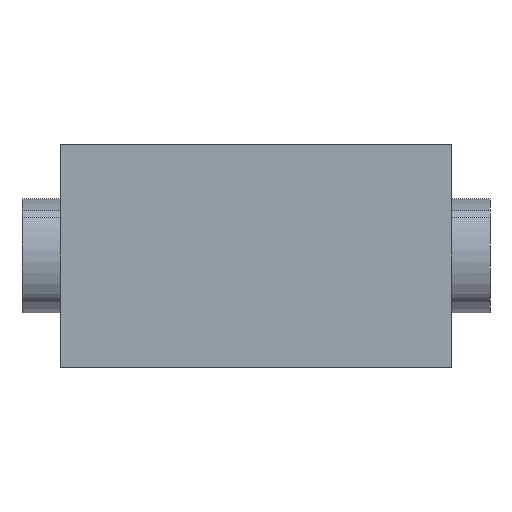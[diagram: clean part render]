
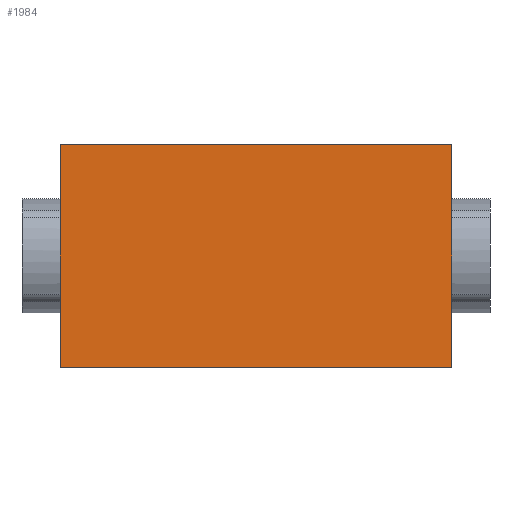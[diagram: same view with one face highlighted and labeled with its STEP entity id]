
A CAD part, front view. The second image highlights one B-rep face of the part: STEP entity #1984.
In plain terms, the highlighted planar face has unit normal (0, -1, 0).
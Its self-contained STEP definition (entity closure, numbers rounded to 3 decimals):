
#65 = ORIENTED_EDGE ( 'NONE', *, *, #1333, .T. ) ;
#101 = VERTEX_POINT ( 'NONE', #2556 ) ;
#164 = ORIENTED_EDGE ( 'NONE', *, *, #2992, .T. ) ;
#291 = CARTESIAN_POINT ( 'NONE',  ( 33.5, -28.5, 19. ) ) ;
#320 = VECTOR ( 'NONE', #1899, 1000. ) ;
#424 = ORIENTED_EDGE ( 'NONE', *, *, #1215, .F. ) ;
#524 = DIRECTION ( 'NONE',  ( 0., 1., 0. ) ) ;
#533 = CARTESIAN_POINT ( 'NONE',  ( -33.5, -28.5, 19. ) ) ;
#536 = VECTOR ( 'NONE', #2501, 1000. ) ;
#543 = DIRECTION ( 'NONE',  ( 0., 0., 1. ) ) ;
#585 = VECTOR ( 'NONE', #2883, 1000. ) ;
#658 = CARTESIAN_POINT ( 'NONE',  ( -33.5, -28.5, 19. ) ) ;
#878 = ORIENTED_EDGE ( 'NONE', *, *, #1733, .F. ) ;
#906 = PLANE ( 'NONE',  #1276 ) ;
#1172 = CARTESIAN_POINT ( 'NONE',  ( 33.5, -28.5, 19. ) ) ;
#1215 = EDGE_CURVE ( 'NONE', #1546, #2089, #2041, .T. ) ;
#1276 = AXIS2_PLACEMENT_3D ( 'NONE', #658, #524, #543 ) ;
#1333 = EDGE_CURVE ( 'NONE', #101, #2423, #2853, .T. ) ;
#1546 = VERTEX_POINT ( 'NONE', #1172 ) ;
#1571 = DIRECTION ( 'NONE',  ( 0., 0., -1. ) ) ;
#1691 = LINE ( 'NONE', #3261, #536 ) ;
#1733 = EDGE_CURVE ( 'NONE', #101, #1546, #2435, .T. ) ;
#1739 = CARTESIAN_POINT ( 'NONE',  ( -33.5, -28.5, -19. ) ) ;
#1899 = DIRECTION ( 'NONE',  ( 1., 0., 0. ) ) ;
#1927 = EDGE_LOOP ( 'NONE', ( #164, #424, #878, #65 ) ) ;
#1984 = ADVANCED_FACE ( 'NONE', ( #2744 ), #906, .F. ) ;
#2041 = LINE ( 'NONE', #291, #585 ) ;
#2089 = VERTEX_POINT ( 'NONE', #2842 ) ;
#2124 = CARTESIAN_POINT ( 'NONE',  ( -33.5, -28.5, 19. ) ) ;
#2423 = VERTEX_POINT ( 'NONE', #1739 ) ;
#2435 = LINE ( 'NONE', #2124, #320 ) ;
#2501 = DIRECTION ( 'NONE',  ( 1., 0., 0. ) ) ;
#2556 = CARTESIAN_POINT ( 'NONE',  ( -33.5, -28.5, 19. ) ) ;
#2581 = VECTOR ( 'NONE', #1571, 1000. ) ;
#2744 = FACE_OUTER_BOUND ( 'NONE', #1927, .T. ) ;
#2842 = CARTESIAN_POINT ( 'NONE',  ( 33.5, -28.5, -19. ) ) ;
#2853 = LINE ( 'NONE', #533, #2581 ) ;
#2883 = DIRECTION ( 'NONE',  ( 0., 0., -1. ) ) ;
#2992 = EDGE_CURVE ( 'NONE', #2423, #2089, #1691, .T. ) ;
#3261 = CARTESIAN_POINT ( 'NONE',  ( -33.5, -28.5, -19. ) ) ;
